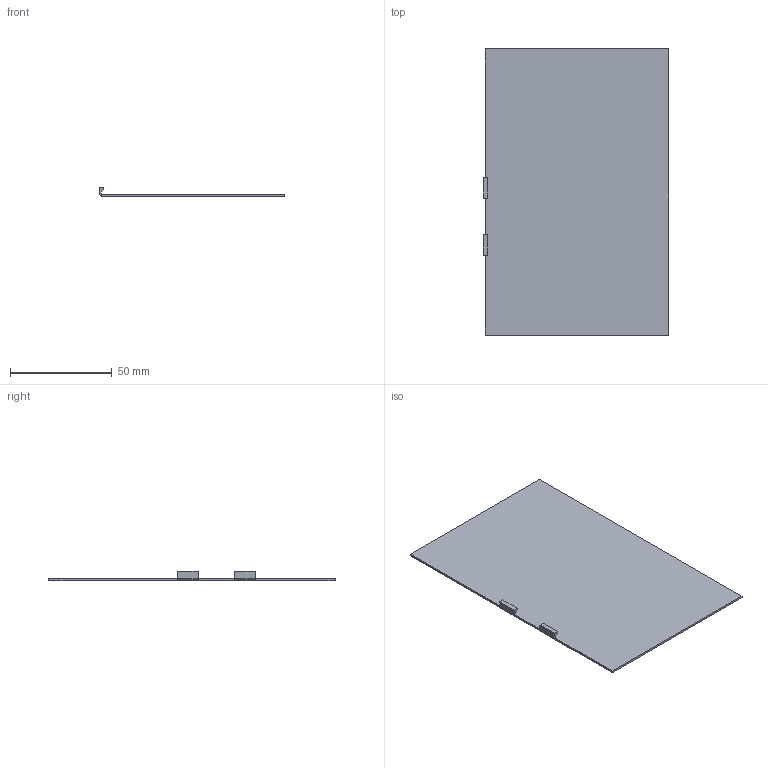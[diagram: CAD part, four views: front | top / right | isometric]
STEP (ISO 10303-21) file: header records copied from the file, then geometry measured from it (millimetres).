
FILE_DESCRIPTION(('Open CASCADE Model'),'2;1');
FILE_NAME('Open CASCADE Shape Model','2026-11-02T07:01:47',('Author'),( 'Open CASCADE'),'Open CASCADE STEP processor 7.8','Open CASCADE 7.8' ,'Unknown');
FILE_SCHEMA(('AUTOMOTIVE_DESIGN { 1 0 10303 214 1 1 1 1 }'));
Length unit declared in the file: millimetre
Products named in the file (1): Open CASCADE STEP translator 7.8 5
Bounding box: 91 x 140.46 x 4.51 mm (x, y, z)
Volume: 12760.1 mm3; surface area: 25970.3 mm2
Topology: 1 solids, 1 shells, 24 faces, 58 edges, 36 vertices
Faces by surface type: plane 24
Entity records: 1442 total; most frequent: CARTESIAN_POINT 235, DIRECTION 224, LINE 174, VECTOR 174, ORIENTED_EDGE 116, PCURVE 116, DEFINITIONAL_REPRESENTATION 116, EDGE_CURVE 58
